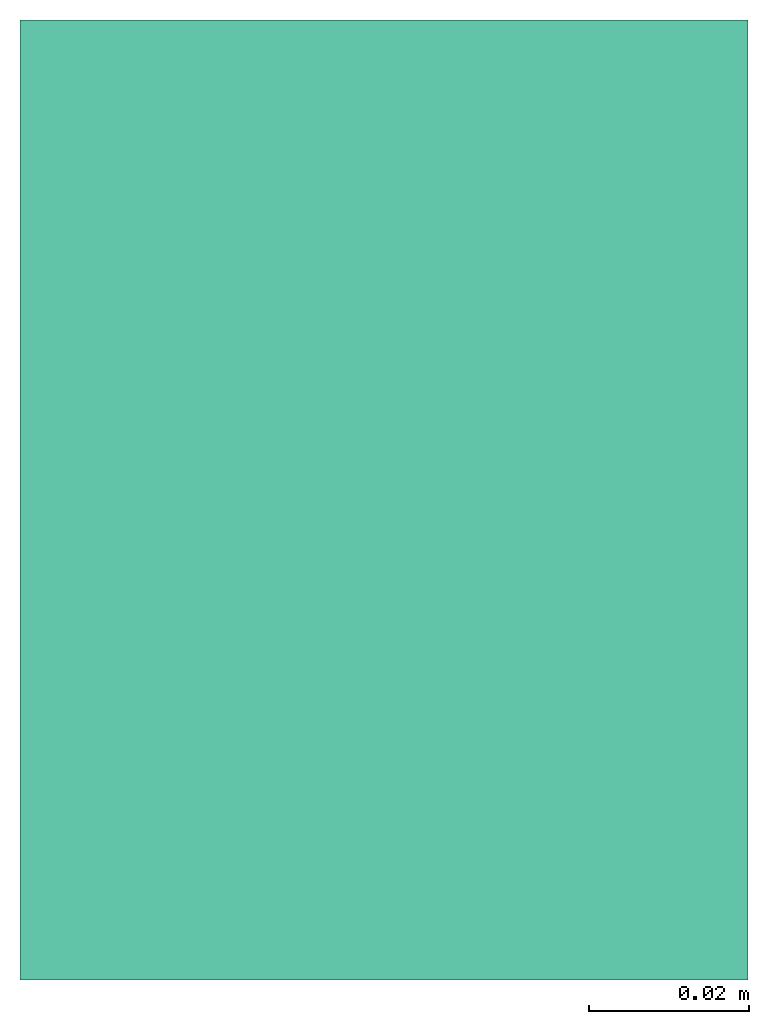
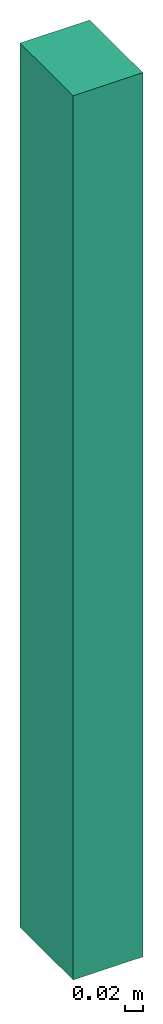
# One storey: 1 flow terminal.
"""IFC2X3 building model written with IfcOpenShell, lengths in millimetres."""

from ifc_helpers import new_model, entity, si_unit, converted_unit, derived_unit, direction, frame, origin_with_axes, place, context, subcontext, project, spatial, open_shell, surface_model, source, transform, mapped, type_object, element, save


model = new_model("IFC2X3")

# Units and contexts
model_context = context("Model", 3, precision=0.01, world=frame((0.0, 4.29681676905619e-09, 0.0)), true_north=direction((4.01073788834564e-13, 1.0)))
plan_context = context("Plan", 3, precision=0.01, world=frame((0.0, 4.29681676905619e-09, 0.0)), true_north=direction((4.01073788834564e-13, 1.0)))
body_context = subcontext(model_context, "Body", "Model", "MODEL_VIEW")
ifc_project = project(units=[converted_unit("PLANEANGLEUNIT", "DEGREE", entity("IfcPositiveLengthMeasure", 0.0174532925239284), si_unit("PLANEANGLEUNIT", "RADIAN"), dimensions=[0, 0, 0, 0, 0, 0, 0]), si_unit("AREAUNIT", "SQUARE_METRE"), si_unit("LENGTHUNIT", "METRE", prefix="MILLI"), si_unit("MASSUNIT", "GRAM", prefix="KILO"), si_unit("POWERUNIT", "WATT"), si_unit("PRESSUREUNIT", "PASCAL"), si_unit("FORCEUNIT", "NEWTON", prefix="KILO"), si_unit("ELECTRICVOLTAGEUNIT", "VOLT"), si_unit("ELECTRICCURRENTUNIT", "AMPERE"), si_unit("THERMODYNAMICTEMPERATUREUNIT", "DEGREE_CELSIUS"), si_unit("TIMEUNIT", "SECOND"), si_unit("VOLUMEUNIT", "CUBIC_METRE"), derived_unit("LINEARVELOCITYUNIT", [(si_unit("LENGTHUNIT", "METRE"), 1), (si_unit("TIMEUNIT", "SECOND"), -1)]), derived_unit("VOLUMETRICFLOWRATEUNIT", [(si_unit("VOLUMEUNIT", "CUBIC_METRE"), 1), (si_unit("TIMEUNIT", "SECOND"), -1)]), derived_unit("THERMALTRANSMITTANCEUNIT", [(si_unit("POWERUNIT", "WATT"), 1), (si_unit("THERMODYNAMICTEMPERATUREUNIT", "KELVIN"), -1), (si_unit("AREAUNIT", "SQUARE_METRE"), -1)]), derived_unit("SOUNDPRESSUREUNIT", [(si_unit("PRESSUREUNIT", "PASCAL"), 1)])], contexts=[model_context, plan_context])

# Site, building, storey
site_placement = place(None, frame((0.0, -4.29681676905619e-09, 0.0), z_axis=(0.0, 0.0, 1.0), x_axis=(1.0, 0.0, 0.0)))
site = spatial("IfcSite", under=ifc_project, at=site_placement, Name="ENGM", CompositionType="ELEMENT")
building_placement = place(site_placement, frame((0.0, 4.29681676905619e-09, 0.0), z_axis=(0.0, 0.0, 1.0), x_axis=(1.0, 0.0, 0.0)))
building = spatial("IfcBuilding", under=site, at=building_placement, Name="TI", CompositionType="ELEMENT")
storey_placement = place(building_placement, frame((0.0, 0.0, 219200.0), z_axis=(0.0, 0.0, 1.0), x_axis=(1.0, 0.0, 0.0)))
storey = spatial("IfcBuildingStorey", under=building, at=storey_placement, Name="Nivå H", CompositionType="ELEMENT", Elevation=219200.0)

# Flow terminal
light_fixture_type = type_object("IfcLightFixtureType", Name="IB5347 Zumtobel Perluce O LED3800-840 L1220 LDE IP54 WH (Vertikal)", PredefinedType="NOTDEFINED")
shared_shape = source(origin_with_axes(), body_context, "Body", "SurfaceModel", [
    surface_model("IfcShellBasedSurfaceModel", [(46.5, 60.0, 610.99999), (46.5, -60.0, 610.99999), (46.5, -60.0, -609.0), (46.5, 60.0, -609.0), (-44.5, -60.0, 610.99999), (-44.5, 60.0, 610.99999), (-44.5, 60.0, -609.0), (-44.5, -60.0, -609.0)], [open_shell([[[0, 1, 2]], [[2, 3, 0]], [[4, 5, 6]], [[6, 7, 4]], [[4, 1, 0]], [[0, 5, 4]], [[6, 0, 3]], [[0, 6, 5]], [[6, 3, 2]], [[2, 7, 6]], [[7, 2, 1]], [[1, 4, 7]]])]),
])
flow_terminal_placement = place(storey_placement, frame((608650.00684, 699104.92839, -5500.0), z_axis=(0.0, 0.0, 1.0), x_axis=(-1.0, 0.0, 0.0)))
element("IfcFlowTerminal", 1, at=flow_terminal_placement, inside=storey, type_object=light_fixture_type, Name="IB5347 Zumtobel Perluce O LED3800-840 L1220 LDE IP54 WH (Vertikal)", context=body_context, shape_type="MappedRepresentation", body=[
    mapped(shared_shape, transform((0.0, 0.0, 0.0), scale=1.0)),
])

save(model, "model.ifc")
